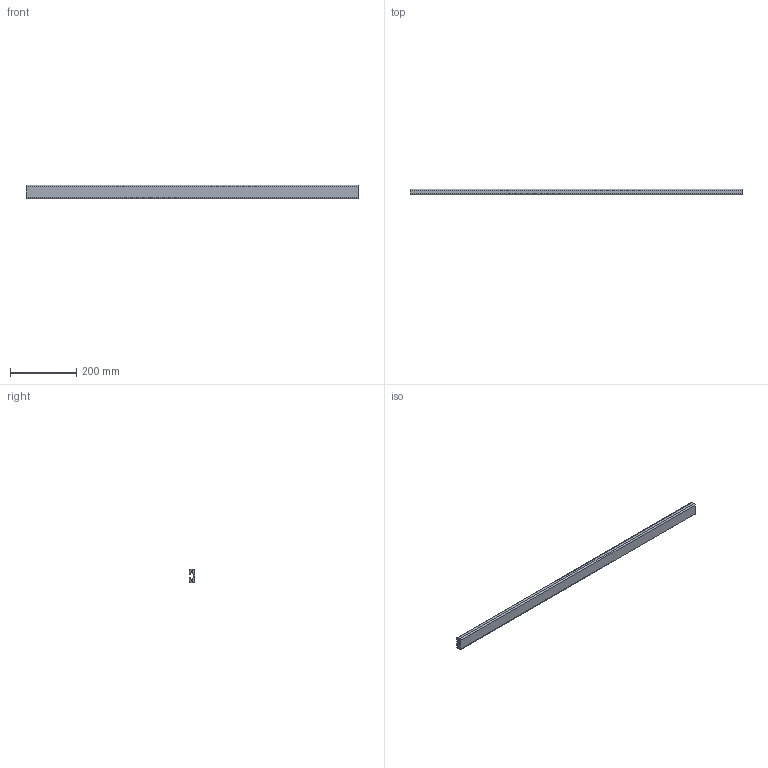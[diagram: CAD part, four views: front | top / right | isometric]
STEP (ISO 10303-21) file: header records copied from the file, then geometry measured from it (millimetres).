
FILE_DESCRIPTION (( 'STEP AP214' ), '1' );
FILE_NAME ('10391_PRO_8_40x16.STEP', '2016-03-01T07:27:48', ( '' ), ( '' ), 'SwSTEP 2.0', 'SolidWorks 2015', '' );
FILE_SCHEMA (( 'AUTOMOTIVE_DESIGN' ));
Length unit declared in the file: millimetre
Products named in the file (1): 10391_PRO_8_40x16
Bounding box: 1000 x 16 x 40 mm (x, y, z)
Volume: 431728.1 mm3; surface area: 175202.5 mm2
Topology: 1 solids, 1 shells, 31 faces, 87 edges, 58 vertices
Faces by surface type: cylinder 19, plane 12
Entity records: 1061 total; most frequent: DIRECTION 189, CARTESIAN_POINT 177, ORIENTED_EDGE 174, EDGE_CURVE 87, AXIS2_PLACEMENT_3D 70, VERTEX_POINT 58, VECTOR 49, LINE 49
